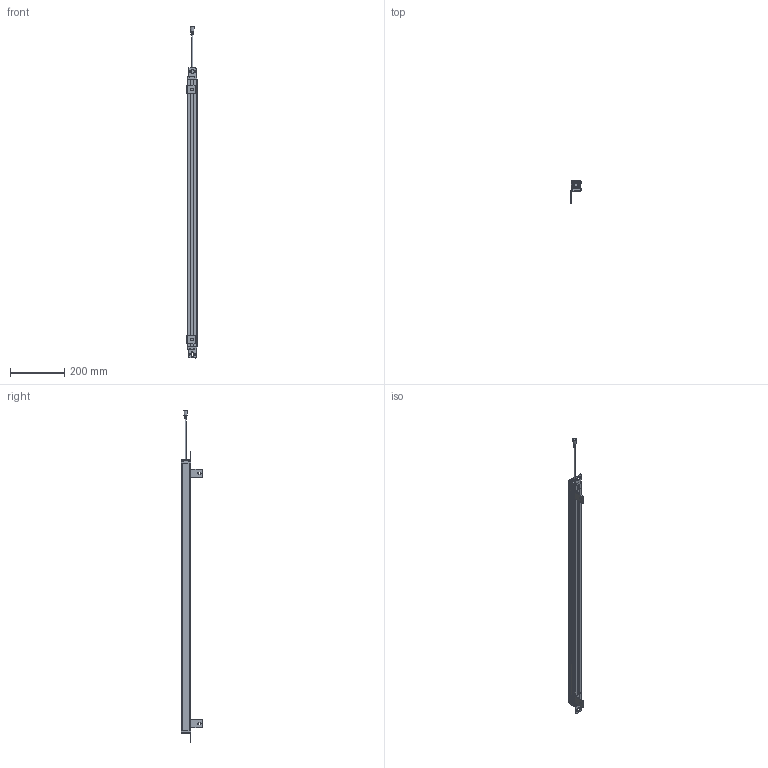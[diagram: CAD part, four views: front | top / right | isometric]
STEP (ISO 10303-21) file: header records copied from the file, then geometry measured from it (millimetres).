
FILE_DESCRIPTION(/* description */ (''),/* implementation_level */ '2;1');
FILE_NAME(/* name */ 'MTD2440.stp',/* time_stamp */ '2023-12-04T16:33:52+08:00',/* author */ (''),/* organization */ (''),/* preprocessor_version */ 'ST-DEVELOPER v16.7',/* originating_system */ 'SIEMENS PLM Software NX 12.0',/* authorisation */ '');
FILE_SCHEMA (('AP203_CONFIGURATION_CONTROLLED_3D_DESIGN_OF_MECHANICAL_PARTS_AND_ASSEMBLIES_MIM_LF { 1 0 10303 403 2 1 2}'));
Length unit declared in the file: millimetre
Products named in the file (1): 1040（35X35__stp
Bounding box: 37 x 80.6 x 1222.01 mm (x, y, z)
Volume: 492562.6 mm3; surface area: 371419.3 mm2
Topology: 10 solids, 10 shells, 563 faces, 1626 edges, 1096 vertices
Faces by surface type: plane 325, cylinder 202, cone 36
Full cylindrical faces by diameter (mm): 4.4 x1, 9 x1, 12.5 x1
Entity records: 18948 total; most frequent: CARTESIAN_POINT 3351, DIRECTION 3263, ORIENTED_EDGE 3230, EDGE_CURVE 1615, VERTEX_POINT 1092, AXIS2_PLACEMENT_3D 1088, LINE 1087, VECTOR 1087
